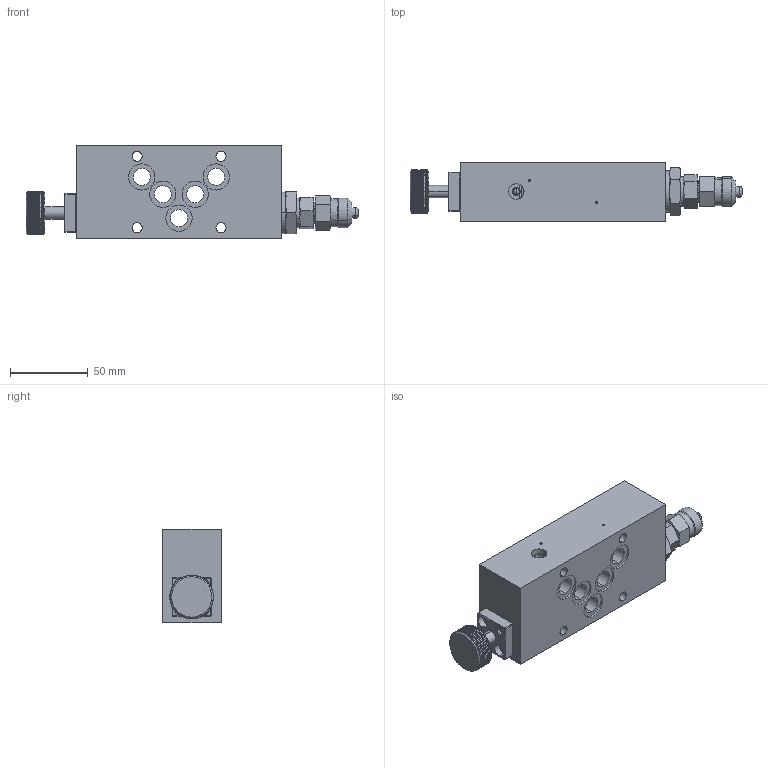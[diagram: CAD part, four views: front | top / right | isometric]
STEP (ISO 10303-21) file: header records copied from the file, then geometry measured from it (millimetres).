
FILE_DESCRIPTION (( 'STEP AP214' ), '1' );
FILE_NAME ('AAHP10_M.STEP', '2017-05-08T12:26:42', ( '' ), ( '' ), 'SwSTEP 2.0', 'SolidWorks 2016', '' );
FILE_SCHEMA (( 'AUTOMOTIVE_DESIGN' ));
Length unit declared in the file: millimetre
Products named in the file (1): AAHP10_M
Bounding box: 213.7 x 37.5 x 60 mm (x, y, z)
Volume: 302160.6 mm3; surface area: 56464.6 mm2
Topology: 12 solids, 13 shells, 666 faces, 1689 edges, 1068 vertices
Faces by surface type: cylinder 397, plane 161, cone 90, torus 14, sphere 4
Entity records: 29522 total; most frequent: CARTESIAN_POINT 6347, ORIENTED_EDGE 3346, DIRECTION 3205, EDGE_CURVE 1673, AXIS2_PLACEMENT_3D 1270, VERTEX_POINT 1068, EDGE_LOOP 739, UNCERTAINTY_MEASURE_WITH_UNIT 676
